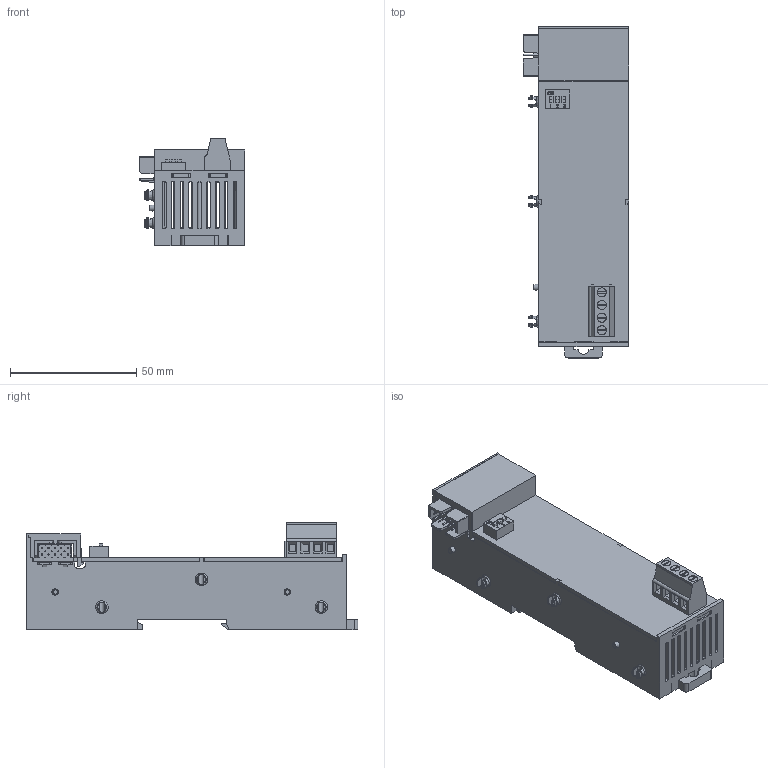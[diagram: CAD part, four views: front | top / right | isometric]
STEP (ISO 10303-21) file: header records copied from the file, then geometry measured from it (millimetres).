
FILE_DESCRIPTION (( 'STEP AP214' ), '1' );
FILE_NAME ('CFDAC-2V_ASM.STEP', '2024-08-12T05:33:39', ( '' ), ( '' ), 'SwSTEP 2.0', 'SolidWorks 2020', '' );
FILE_SCHEMA (( 'AUTOMOTIVE_DESIGN' ));
Length unit declared in the file: millimetre
Products named in the file (1): CFDAC-2V_ASM
Bounding box: 42 x 131.5 x 42.7 mm (x, y, z)
Volume: 39010.3 mm3; surface area: 45524.1 mm2
Topology: 1 solids, 4 shells, 1182 faces, 3272 edges, 2105 vertices
Faces by surface type: plane 835, cylinder 185, cone 101, bspline 61
Full cylindrical faces by diameter (mm): 0.5 x40, 1.6 x4, 2 x1, 3.6 x4, 4.6 x3, 6 x1, 9 x1
Entity records: 39145 total; most frequent: CARTESIAN_POINT 9997, ORIENTED_EDGE 6276, DIRECTION 5509, EDGE_CURVE 3138, VECTOR 2397, LINE 2397, VERTEX_POINT 2070, AXIS2_PLACEMENT_3D 1556
